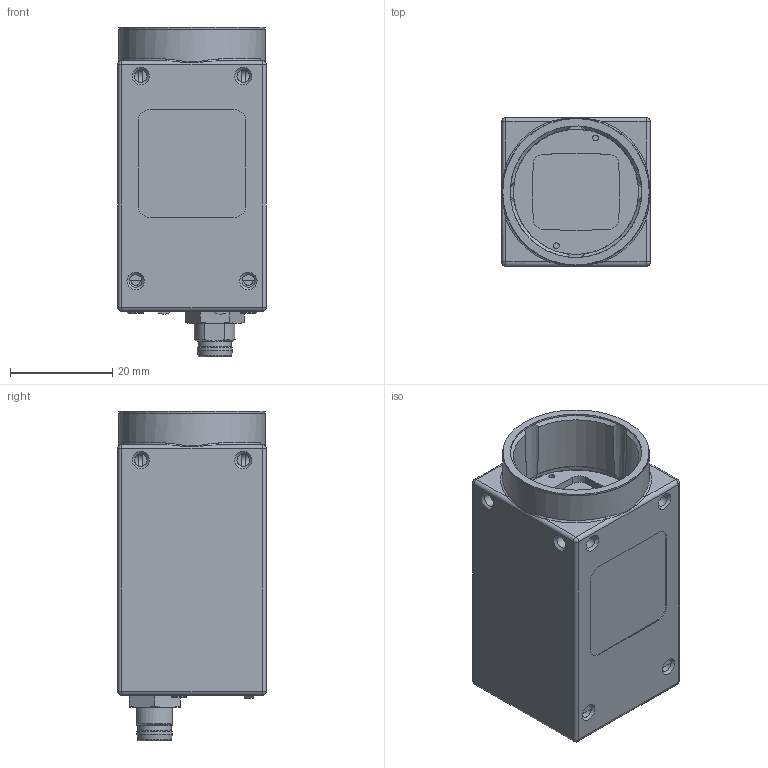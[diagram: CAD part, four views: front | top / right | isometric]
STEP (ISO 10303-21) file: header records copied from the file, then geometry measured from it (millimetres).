
FILE_DESCRIPTION(/* description */ ('Unknown'),/* implementation_level */ '2;1');
FILE_NAME(/* name */ '11702241_VCXG-241C',/* time_stamp */ '2021-06-21T16:18:34+02:00',/* author */ ('Unknown'),/* organization */ ('Baumer'),/* preprocessor_version */ 'ST-DEVELOPER v16.7',/* originating_system */ 'Solid Edge',/* authorisation */ 'Unknown');
FILE_SCHEMA (('AUTOMOTIVE_DESIGN {1 0 10303 214 3 1 1}'));
Length unit declared in the file: millimetre
Products named in the file (1): D0001009210-DBG VCXG-241C STEP
Bounding box: 29 x 29 x 64.35 mm (x, y, z)
Volume: 35053.2 mm3; surface area: 16629.3 mm2
Topology: 1 solids, 6 shells, 1296 faces, 3576 edges, 2277 vertices
Faces by surface type: plane 715, cylinder 371, cone 128, torus 32, sphere 26, bspline 24
Full cylindrical faces by diameter (mm): 0.6 x8, 1.075 x2, 1.1 x2, 1.4 x4, 1.567 x4, 1.6 x2, 1.9 x4, 2.459 x8, 3 x4, 6.5 x1, 6.9 x1, 8.4 x1, 9.4 x1, 25.7 x1, 26 x1, 28.6 x1, 28.7 x1
Entity records: 49888 total; most frequent: CARTESIAN_POINT 8554, ORIENTED_EDGE 6782, DIRECTION 6609, EDGE_CURVE 3391, AXIS2_PLACEMENT_3D 2282, VERTEX_POINT 2214, LINE 2045, VECTOR 2045
